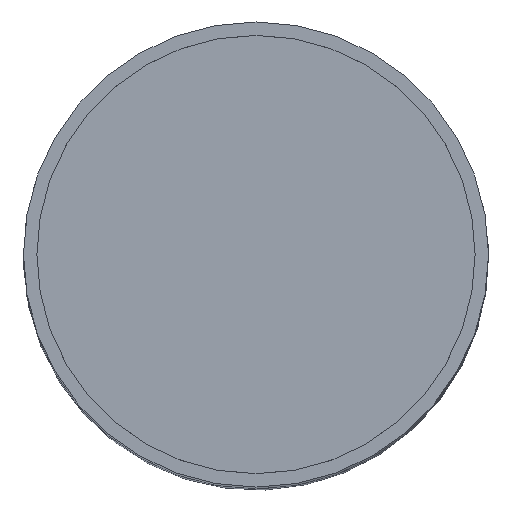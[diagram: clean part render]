
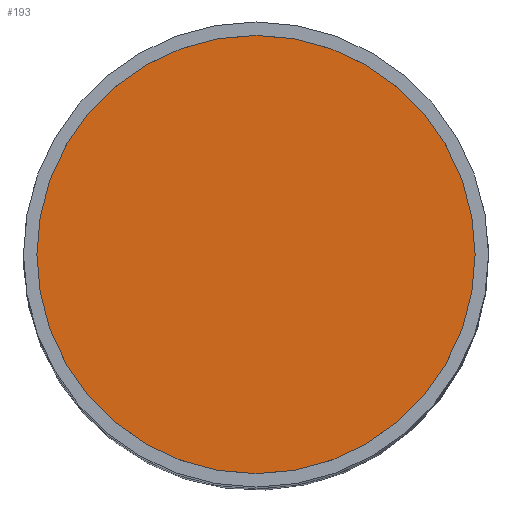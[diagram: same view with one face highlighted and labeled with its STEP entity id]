
A CAD part, top view. The second image highlights one B-rep face of the part: STEP entity #193.
In plain terms, the highlighted planar face has unit normal (0, 0, 1).
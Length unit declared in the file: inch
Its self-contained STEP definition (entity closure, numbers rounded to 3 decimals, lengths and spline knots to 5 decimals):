
#50=FACE_OUTER_BOUND('',#67,.T.);
#67=EDGE_LOOP('',(#137));
#95=CIRCLE('',#240,24.5);
#109=VERTEX_POINT('',#354);
#123=EDGE_CURVE('',#109,#109,#95,.T.);
#137=ORIENTED_EDGE('',*,*,#123,.F.);
#165=PLANE('',#239);
#193=ADVANCED_FACE('',(#50),#165,.T.);
#239=AXIS2_PLACEMENT_3D('',#353,#279,#280);
#240=AXIS2_PLACEMENT_3D('',#355,#281,#282);
#279=DIRECTION('center_axis',(0.,0.,1.));
#280=DIRECTION('ref_axis',(1.,0.,0.));
#281=DIRECTION('center_axis',(0.,0.,-1.));
#282=DIRECTION('ref_axis',(-1.,0.,0.));
#353=CARTESIAN_POINT('Origin',(0.,0.,98.));
#354=CARTESIAN_POINT('',(24.5,0.,98.));
#355=CARTESIAN_POINT('Origin',(0.,0.,98.));
